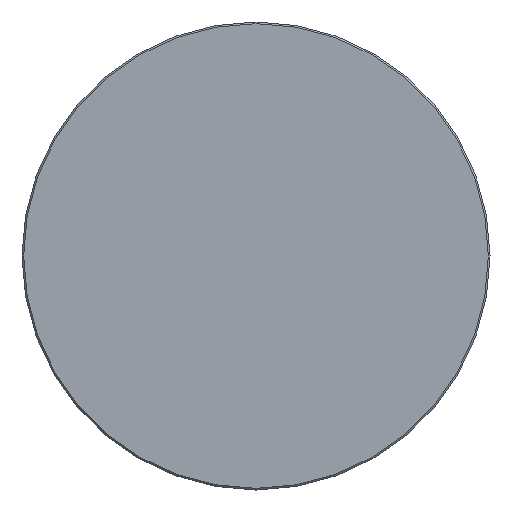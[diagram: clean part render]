
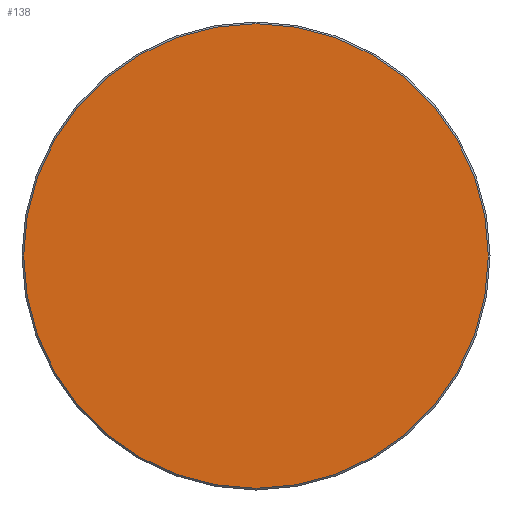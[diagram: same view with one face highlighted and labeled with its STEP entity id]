
A CAD part, left-side view. The second image highlights one B-rep face of the part: STEP entity #138.
In plain terms, the highlighted planar face has unit normal (-1, 0, 0).
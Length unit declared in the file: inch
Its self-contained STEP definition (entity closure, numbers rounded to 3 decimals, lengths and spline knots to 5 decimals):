
#4 = ORIENTED_EDGE ( 'NONE', *, *, #22, .T. ) ;
#22 = EDGE_CURVE ( 'NONE', #373, #352, #104, .T. ) ;
#43 = AXIS2_PLACEMENT_3D ( 'NONE', #358, #223, #189 ) ;
#46 = ORIENTED_EDGE ( 'NONE', *, *, #142, .T. ) ;
#53 = EDGE_LOOP ( 'NONE', ( #4, #46 ) ) ;
#74 = DIRECTION ( 'NONE',  ( 0., -1., 0. ) ) ;
#88 = CARTESIAN_POINT ( 'NONE',  ( 0., -0.5585, 0. ) ) ;
#104 = CIRCLE ( 'NONE', #43, 0.5585 ) ;
#118 = CARTESIAN_POINT ( 'NONE',  ( 0., 0.5585, 0. ) ) ;
#136 = PLANE ( 'NONE',  #161 ) ;
#138 = ADVANCED_FACE ( 'NONE', ( #269 ), #136, .T. ) ;
#142 = EDGE_CURVE ( 'NONE', #352, #373, #324, .T. ) ;
#149 = AXIS2_PLACEMENT_3D ( 'NONE', #333, #160, #280 ) ;
#160 = DIRECTION ( 'NONE',  ( -1., 0., 0. ) ) ;
#161 = AXIS2_PLACEMENT_3D ( 'NONE', #306, #253, #74 ) ;
#189 = DIRECTION ( 'NONE',  ( 0., -1., 0. ) ) ;
#223 = DIRECTION ( 'NONE',  ( -1., 0., 0. ) ) ;
#253 = DIRECTION ( 'NONE',  ( -1., 0., 0. ) ) ;
#269 = FACE_OUTER_BOUND ( 'NONE', #53, .T. ) ;
#280 = DIRECTION ( 'NONE',  ( 0., -1., 0. ) ) ;
#306 = CARTESIAN_POINT ( 'NONE',  ( 0., 0., 0. ) ) ;
#324 = CIRCLE ( 'NONE', #149, 0.5585 ) ;
#333 = CARTESIAN_POINT ( 'NONE',  ( 0., 0., 0. ) ) ;
#352 = VERTEX_POINT ( 'NONE', #88 ) ;
#358 = CARTESIAN_POINT ( 'NONE',  ( 0., 0., 0. ) ) ;
#373 = VERTEX_POINT ( 'NONE', #118 ) ;
